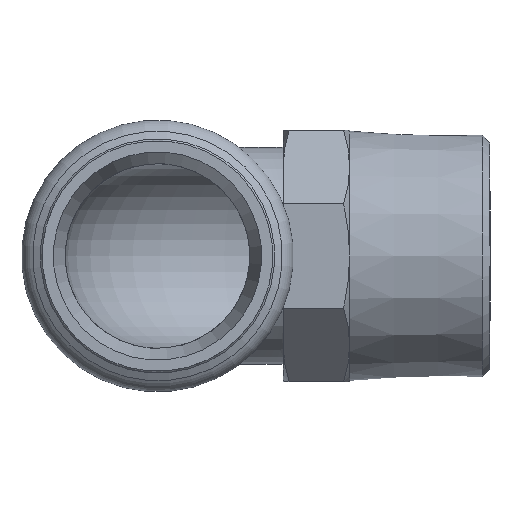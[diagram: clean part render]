
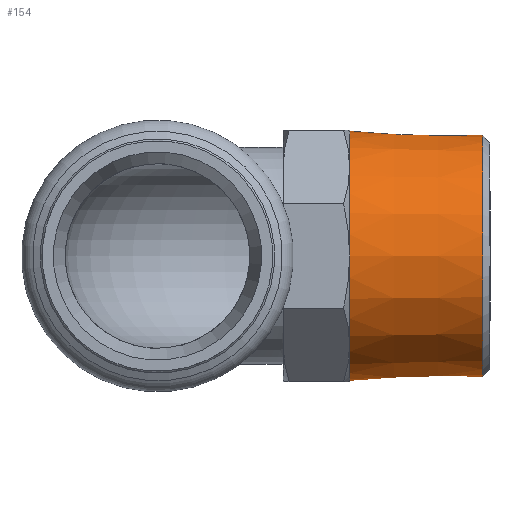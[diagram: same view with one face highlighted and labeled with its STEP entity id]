
A CAD part, left-side view. The second image highlights one B-rep face of the part: STEP entity #154.
In plain terms, the highlighted conical face has half-angle 1.79 degrees and reference radius 16.443 mm.
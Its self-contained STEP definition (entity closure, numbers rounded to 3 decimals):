
#112=CARTESIAN_POINT('',(-16.331,-44.,0.));
#113=VERTEX_POINT('',#112);
#114=CARTESIAN_POINT('',(0.,-44.,0.));
#115=DIRECTION('',(0.0,-1.0,0.0));
#116=DIRECTION('',(1.0,0.0,0.0));
#117=AXIS2_PLACEMENT_3D('',#114,#115,#116);
#118=CIRCLE('',#117,16.331);
#119=EDGE_CURVE('',#113,#113,#118,.T.);
#135=CARTESIAN_POINT('',(0.,-40.42,0.0));
#136=DIRECTION('',(0.,1.0,0.0));
#137=DIRECTION('',(1.0,0.0,0.0));
#138=AXIS2_PLACEMENT_3D('',#135,#136,#137);
#139=CONICAL_SURFACE('',#138,16.443,1.79);
#140=CARTESIAN_POINT('',(16.893,-26.,0.0));
#141=VERTEX_POINT('',#140);
#142=CARTESIAN_POINT('',(0.,-26.,0.0));
#143=DIRECTION('',(0.0,1.0,0.0));
#144=DIRECTION('',(1.0,0.0,0.0));
#145=AXIS2_PLACEMENT_3D('',#142,#143,#144);
#146=CIRCLE('',#145,16.893);
#147=EDGE_CURVE('',#141,#141,#146,.T.);
#148=ORIENTED_EDGE('',*,*,#147,.F.);
#149=EDGE_LOOP('',(#148));
#150=FACE_OUTER_BOUND('',#149,.T.);
#151=ORIENTED_EDGE('',*,*,#119,.F.);
#152=EDGE_LOOP('',(#151));
#153=FACE_BOUND('',#152,.T.);
#154=ADVANCED_FACE('',(#150,#153),#139,.T.);
